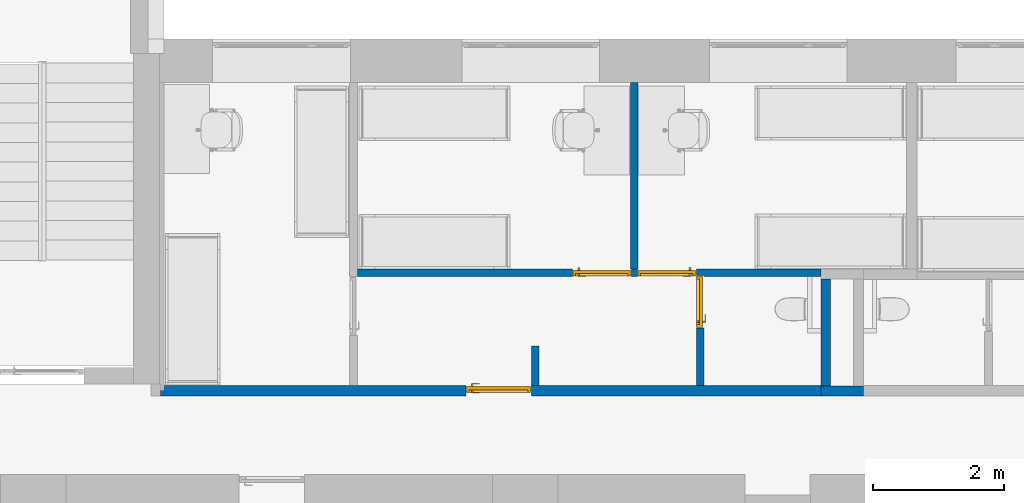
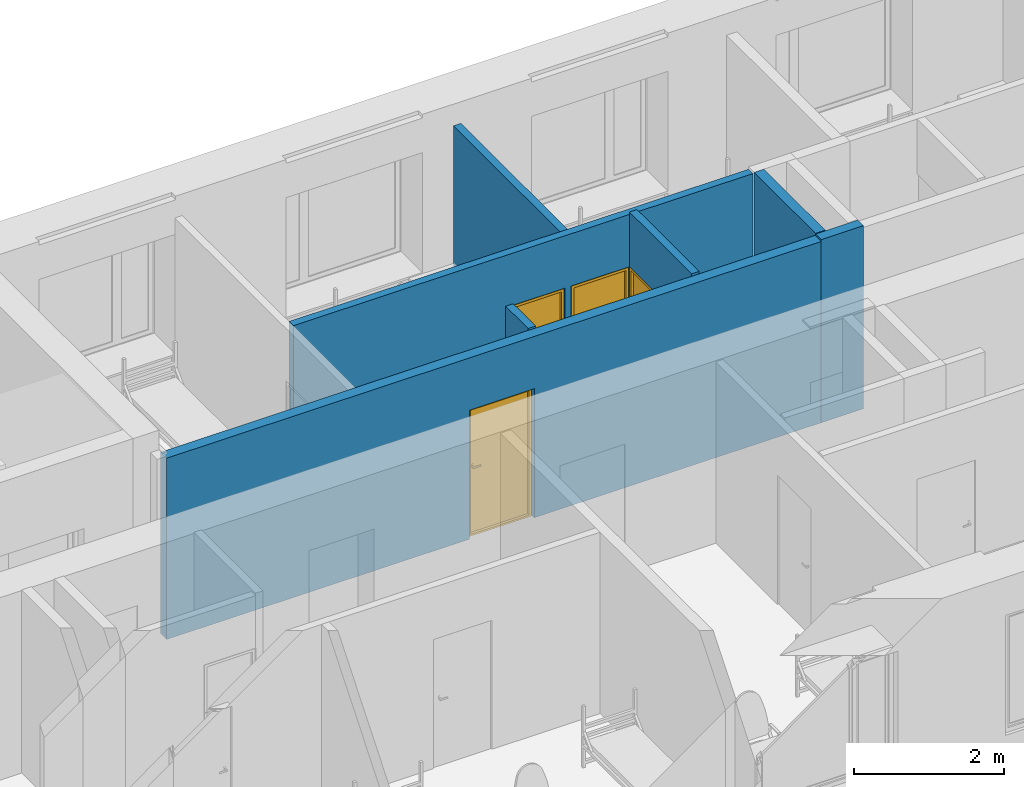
# One storey, part 9 of 48: 7 walls, 4 doors, 5 openings.
"""IFC2X3 building model written with IfcOpenShell, lengths in millimetres."""

from ifc_helpers import new_model, entity, si_unit, converted_unit, derived_unit, direction, frame, frame_2d, origin, place, context, subcontext, project, spatial, rectangle, extrude, faceted_brep, source, transform, mapped, material, material_list, layer, layer_set, layer_usage, type_object, type_shapes, element, fill, save


model = new_model("IFC2X3")

# Units and contexts
model_context = context("Model", 3, precision=0.01, world=origin(), true_north=direction((6.12303176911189e-17, 1.0)))
body_context = subcontext(model_context, "Body", "Model", "MODEL_VIEW")
ifc_project = project(units=[si_unit("LENGTHUNIT", "METRE", prefix="MILLI"), si_unit("AREAUNIT", "SQUARE_METRE"), si_unit("VOLUMEUNIT", "CUBIC_METRE"), converted_unit("PLANEANGLEUNIT", "DEGREE", entity("IfcRatioMeasure", 0.0174532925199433), si_unit("PLANEANGLEUNIT", "RADIAN"), dimensions=[0, 0, 0, 0, 0, 0, 0]), si_unit("MASSUNIT", "GRAM", prefix="KILO"), derived_unit("MASSDENSITYUNIT", [(si_unit("MASSUNIT", "GRAM", prefix="KILO"), 1), (si_unit("LENGTHUNIT", "METRE"), -3)]), si_unit("TIMEUNIT", "SECOND"), si_unit("FREQUENCYUNIT", "HERTZ"), si_unit("THERMODYNAMICTEMPERATUREUNIT", "DEGREE_CELSIUS"), derived_unit("THERMALTRANSMITTANCEUNIT", [(si_unit("MASSUNIT", "GRAM", prefix="KILO"), 1), (si_unit("THERMODYNAMICTEMPERATUREUNIT", "KELVIN"), -1), (si_unit("TIMEUNIT", "SECOND"), -3)]), derived_unit("VOLUMETRICFLOWRATEUNIT", [(si_unit("LENGTHUNIT", "METRE"), 3), (si_unit("TIMEUNIT", "SECOND"), -1)]), si_unit("ELECTRICCURRENTUNIT", "AMPERE"), si_unit("ELECTRICVOLTAGEUNIT", "VOLT"), si_unit("POWERUNIT", "WATT"), si_unit("FORCEUNIT", "NEWTON", prefix="KILO"), si_unit("ILLUMINANCEUNIT", "LUX"), si_unit("LUMINOUSFLUXUNIT", "LUMEN"), si_unit("LUMINOUSINTENSITYUNIT", "CANDELA"), derived_unit("USERDEFINED", [(si_unit("MASSUNIT", "GRAM", prefix="KILO"), -1), (si_unit("LENGTHUNIT", "METRE"), -2), (si_unit("TIMEUNIT", "SECOND"), 3), (si_unit("LUMINOUSFLUXUNIT", "LUMEN"), 1)]), derived_unit("LINEARVELOCITYUNIT", [(si_unit("LENGTHUNIT", "METRE"), 1), (si_unit("TIMEUNIT", "SECOND"), -1)]), si_unit("PRESSUREUNIT", "PASCAL"), derived_unit("USERDEFINED", [(si_unit("LENGTHUNIT", "METRE"), -2), (si_unit("MASSUNIT", "GRAM", prefix="KILO"), 1), (si_unit("TIMEUNIT", "SECOND"), -2)]), derived_unit("LINEARFORCEUNIT", [(si_unit("MASSUNIT", "GRAM", prefix="KILO"), 1), (si_unit("LENGTHUNIT", "METRE"), 1), (si_unit("TIMEUNIT", "SECOND"), -2), (si_unit("LENGTHUNIT", "METRE"), -1)]), derived_unit("PLANARFORCEUNIT", [(si_unit("MASSUNIT", "GRAM", prefix="KILO"), 1), (si_unit("LENGTHUNIT", "METRE"), 1), (si_unit("TIMEUNIT", "SECOND"), -2), (si_unit("LENGTHUNIT", "METRE"), -2)])], contexts=[model_context])

# Site, building, storey
site_placement = place(None, origin())
site = spatial("IfcSite", under=ifc_project, at=site_placement, Name="Default", CompositionType="ELEMENT")
building_placement = place(site_placement, origin())
building = spatial("IfcBuilding", under=site, at=building_placement, Name="SMA ARH", CompositionType="ELEMENT")
storey_placement = place(building_placement, frame((0.0, 0.0, 3300.0)))
storey = spatial("IfcBuildingStorey", under=building, at=storey_placement, Name="2 Korrus", CompositionType="ELEMENT", Elevation=3299.99999999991)

# Walls
ifc_material_1 = material(Name="EST. Müüritis. Väikeplokk. Kergkruusplokk")
ifc_layer_1 = layer(ifc_material_1, 150.0)
ifc_layer_set_1 = layer_set([ifc_layer_1], Name="Basic Wall:SS-02_ 150mm šahtide vahesein")
ifc_layer_usage_1 = layer_usage(ifc_layer_set_1, "AXIS2", "POSITIVE", -75.0)
wall_type_1 = type_object("IfcWallType", Name="Basic Wall:SS-02_ 150mm šahtide vahesein", PredefinedType="STANDARD", material=ifc_layer_set_1)
wall_1_placement = place(storey_placement, frame((22737.2884818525, 7795.0, 0.0), z_axis=(0.0, 0.0, 1.0), x_axis=(-1.0, 0.0, 0.0)))
element("IfcWallStandardCase", 1, at=wall_1_placement, inside=storey, type_object=wall_type_1, material=ifc_layer_usage_1, Name="Basic Wall:SS-02_ 150mm šahtide vahesein", ObjectType="Basic Wall:SS-02_ 150mm šahtide vahesein", context=body_context, shape_type="SweptSolid", body=[
    extrude(rectangle(XDim=650.000000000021, YDim=150.000000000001, at=frame_2d((325.000000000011, 4.68958205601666e-13), x_axis=(-1.0, 0.0))), origin(), (0.0, 0.0, 1.0), 2979.99999999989),
])
ifc_layer_usage_2 = layer_usage(ifc_layer_set_1, "AXIS2", "POSITIVE", -75.0)
wall_2_placement = place(storey_placement, frame((22162.2884818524, 7870.0, 0.0), z_axis=(0.0, 0.0, 1.0), x_axis=(0.0, 1.0, 0.0)))
element("IfcWallStandardCase", 2, at=wall_2_placement, inside=storey, type_object=wall_type_1, material=ifc_layer_usage_2, Name="Basic Wall:SS-02_ 150mm šahtide vahesein", ObjectType="Basic Wall:SS-02_ 150mm šahtide vahesein", context=body_context, shape_type="SweptSolid", body=[
    extrude(rectangle(XDim=1637.00000000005, YDim=150.000000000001, at=frame_2d((818.500000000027, 0.0), x_axis=(-1.0, 0.0))), origin(), (0.0, 0.0, 1.0), 2989.99999999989),
])

# Wall, opening, door
ifc_material_2 = material(Name="EST. Ehitusplaat. Kipsplaat")
ifc_layer_2 = layer(ifc_material_2, 12.5)
ifc_layer_3 = layer(ifc_material_2, 12.5)
ifc_material_3 = material(Name="EST. Soojustus. Mineraalvill. Default")
ifc_layer_4 = layer(ifc_material_3, 50.0)
ifc_layer_5 = layer(ifc_material_2, 12.5)
ifc_layer_6 = layer(ifc_material_3, 50.0)
ifc_layer_7 = layer(ifc_material_2, 12.5)
ifc_layer_8 = layer(ifc_material_2, 12.5)
ifc_layer_set_2 = layer_set([ifc_layer_2, ifc_layer_3, ifc_layer_4, ifc_layer_5, ifc_layer_6, ifc_layer_7, ifc_layer_8], Name="Basic Wall:SS-04_Kips, 50+50 mm metallkarkass 2")
ifc_layer_usage_3 = layer_usage(ifc_layer_set_2, "AXIS2", "NEGATIVE", 81.25)
wall_type_2 = type_object("IfcWallType", Name="Basic Wall:SS-04_Kips, 50+50 mm metallkarkass 2", PredefinedType="STANDARD", material=ifc_layer_set_2)
wall_3_placement = place(storey_placement, frame((12015.0, 7801.25000000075, 0.0)))
wall_3 = element("IfcWallStandardCase", 3, at=wall_3_placement, inside=storey, type_object=wall_type_2, material=ifc_layer_usage_3, Name="Basic Wall:SS-04_Kips, 50+50 mm metallkarkass 2", ObjectType="Basic Wall:SS-04_Kips, 50+50 mm metallkarkass 2", context=body_context, shape_type="SweptSolid", body=[
    extrude(rectangle(XDim=10072.2884818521, YDim=162.5, at=frame_2d((5036.14424092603, -2.1316282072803e-14), x_axis=(-1.0, 0.0))), origin(), (0.0, 0.0, 1.0), 2949.99999999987),
])
opening_1_placement = place(wall_3_placement, frame((4657.0, -81.2500000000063, 0.0)))
opening_1 = element("IfcOpeningElement", 4, at=opening_1_placement, cuts=wall_3, Name="SMA_D01, 1-poolne:SU-P-04 - 1000x2100 EI-30:1", ObjectType="Opening", context=body_context, shape_type="SweptSolid", body=[
    extrude(rectangle(XDim=2099.99999999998, YDim=1000.0, at=frame_2d((1049.99999999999, 500.0), x_axis=(1.0, 0.0))), frame((0.0, 0.0, 0.0), z_axis=(0.0, 1.0, 0.0), x_axis=(0.0, 0.0, 1.0)), (0.0, 0.0, 1.0), 162.5),
])
ifc_material_4 = material(Name="EST. Metall. Alumiinium. Värvitud. RAL7023 (Concrete grey)")
ifc_material_5 = material(Name="<Unnamed>")
ifc_material_6 = material(Name="EST. Klaas. 3x. Default")
ifc_material_list_1 = material_list([ifc_material_5, ifc_material_6, ifc_material_5, ifc_material_4, ifc_material_5, ifc_material_4, ifc_material_4])
door_style_1 = type_object("IfcDoorStyle", Name="SMA_D01, 1-poolne:SU-P-04 - 1000x2100 EI-30", ConstructionType="NOTDEFINED", OperationType="SINGLE_SWING_RIGHT", ParameterTakesPrecedence=False, Sizeable=False, material=ifc_material_list_1)
shared_shape_1 = source(origin(), body_context, "Body", "Brep", [
    faceted_brep([(110.0, 52.5000000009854, 1112.5), (110.0, 90.5000000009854, 1112.5), (85.0, 90.5000000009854, 1112.5), (85.0, 47.5000000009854, 1112.5), (205.0, 47.5000000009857, 1112.5), (205.0, 52.5000000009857, 1112.5), (110.0, 52.5000000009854, 1087.5), (205.0, 52.5000000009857, 1087.5), (205.0, 47.5000000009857, 1087.5), (85.0, 47.5000000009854, 1087.5), (85.0, 90.5000000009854, 1087.5), (110.0, 90.5000000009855, 1087.5)], [[[0, 1, 2, 3, 4, 5]], [[6, 7, 8, 9, 10, 11]], [[1, 0, 6, 11]], [[2, 1, 11, 10]], [[3, 2, 10, 9]], [[4, 3, 9, 8]], [[5, 4, 8, 7]], [[0, 5, 7, 6]]]),
    faceted_brep([(122.499999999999, 90.5000000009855, 1137.5), (122.499999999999, 92.5000000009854, 1137.5), (72.4999999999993, 92.5000000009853, 1137.5), (72.4999999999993, 90.5000000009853, 1137.5), (122.499999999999, 90.5000000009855, 1017.5), (72.4999999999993, 90.5000000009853, 1017.5), (72.4999999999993, 92.5000000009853, 1017.5), (122.499999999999, 92.5000000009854, 1017.5)], [[[0, 1, 2, 3]], [[4, 5, 6, 7]], [[1, 0, 4, 7]], [[2, 1, 7, 6]], [[3, 2, 6, 5]], [[0, 3, 5, 4]]]),
    faceted_brep([(110.0, 182.500000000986, 1112.5), (205.0, 182.500000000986, 1112.5), (205.0, 187.500000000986, 1112.5), (85.0, 187.500000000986, 1112.5), (85.0, 144.500000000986, 1112.5), (110.0, 144.500000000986, 1112.5), (110.0, 182.500000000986, 1087.5), (110.0, 144.500000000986, 1087.5), (85.0, 144.500000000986, 1087.5), (85.0, 187.500000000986, 1087.5), (205.0, 187.500000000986, 1087.5), (205.0, 182.500000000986, 1087.5)], [[[0, 1, 2, 3, 4, 5]], [[6, 7, 8, 9, 10, 11]], [[5, 7, 6, 0]], [[4, 8, 7, 5]], [[3, 9, 8, 4]], [[2, 10, 9, 3]], [[1, 11, 10, 2]], [[0, 6, 11, 1]]]),
    faceted_brep([(122.499999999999, 144.500000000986, 1137.5), (72.4999999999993, 144.500000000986, 1137.5), (72.4999999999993, 142.500000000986, 1137.5), (122.499999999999, 142.500000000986, 1137.5), (122.499999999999, 144.500000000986, 1017.5), (122.499999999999, 142.500000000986, 1017.5), (72.4999999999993, 142.500000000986, 1017.5), (72.4999999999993, 144.500000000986, 1017.5)], [[[0, 1, 2, 3]], [[4, 5, 6, 7]], [[3, 5, 4, 0]], [[2, 6, 5, 3]], [[1, 7, 6, 2]], [[0, 4, 7, 1]]]),
    faceted_brep([(950.0, 52.5000000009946, 30.0), (950.0, 52.5000000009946, 0.0), (950.0, 92.5000000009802, 0.0), (950.0, 92.5000000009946, 20.0), (950.0, 92.5000000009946, 30.0), (50.0, 52.5000000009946, 30.0), (50.0, 92.5000000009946, 30.0), (50.0, 92.5000000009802, 20.0), (50.0, 92.5000000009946, 0.0), (50.0, 52.5000000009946, 0.0), (35.0, 92.5000000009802, 0.0), (35.0, 142.500000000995, 0.0), (965.0, 142.500000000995, 0.0), (965.0, 92.5000000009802, 0.0), (965.0, 142.500000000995, 20.0), (965.0, 92.5000000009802, 20.0), (35.0, 142.500000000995, 20.0), (35.0, 92.5000000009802, 20.0)], [[[0, 1, 2, 3, 4]], [[5, 6, 7, 8, 9]], [[1, 0, 5, 9]], [[2, 1, 9, 8, 10, 11, 12, 13]], [[6, 4, 3, 7]], [[0, 4, 6, 5]], [[14, 15, 13, 12]], [[16, 11, 10, 17]], [[15, 14, 16, 17, 7, 3]], [[13, 15, 3, 2]], [[14, 12, 11, 16]], [[17, 10, 8, 7]]]),
    faceted_brep([(990.0, 52.5000000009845, 0.0), (950.0, 52.5000000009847, 0.0), (950.0, 92.5000000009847, 0.0), (965.0, 92.5000000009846, 0.0), (965.0, 142.500000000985, 0.0), (990.0, 142.500000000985, 0.0), (990.0, 52.5000000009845, 2090.0), (10.0, 52.5000000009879, 2090.0), (10.0, 52.5000000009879, 0.0), (50.0, 52.5000000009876, 0.0), (50.0, 52.5000000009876, 2050.0), (950.0, 52.5000000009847, 2050.0), (950.0, 92.5000000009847, 2050.0), (50.0, 92.5000000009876, 2050.0), (50.0, 92.5000000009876, 0.0), (35.0, 92.5000000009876, 0.0), (35.0, 92.5000000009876, 2065.0), (965.0, 92.5000000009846, 2065.0), (965.0, 142.500000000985, 2065.0), (35.0, 142.500000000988, 2065.0), (35.0, 142.500000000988, 0.0), (10.0, 142.500000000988, 0.0), (10.0, 142.500000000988, 2090.0), (990.0, 142.500000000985, 2090.0)], [[[0, 1, 2, 3, 4, 5]], [[1, 0, 6, 7, 8, 9, 10, 11]], [[2, 1, 11, 12]], [[3, 2, 12, 13, 14, 15, 16, 17]], [[4, 3, 17, 18]], [[5, 4, 18, 19, 20, 21, 22, 23]], [[0, 5, 23, 6]], [[8, 7, 22, 21]], [[9, 8, 21, 20, 15, 14]], [[10, 9, 14, 13]], [[16, 15, 20, 19]], [[11, 10, 13, 12]], [[17, 16, 19, 18]], [[7, 6, 23, 22]]]),
    faceted_brep([(35.0, 92.5000000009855, 2065.0), (35.0, 92.5000000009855, 20.0), (965.0, 92.5000000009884, 20.0), (965.0, 92.5000000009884, 2065.0), (35.0, 142.500000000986, 2065.0), (965.0, 142.500000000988, 2065.0), (965.0, 142.500000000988, 20.0), (35.0, 142.500000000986, 20.0)], [[[0, 1, 2, 3]], [[4, 5, 6, 7]], [[1, 0, 4, 7]], [[2, 1, 7, 6]], [[3, 2, 6, 5]], [[0, 3, 5, 4]]]),
])
type_shapes(door_style_1, [shared_shape_1])
door_1_placement = place(opening_1_placement, origin())
door_1 = element("IfcDoor", 5, at=door_1_placement, inside=storey, type_object=door_style_1, material=ifc_material_4, Name="SMA_D01, 1-poolne:SU-P-04 - 1000x2100 EI-30", ObjectType="SMA_D01, 1-poolne:SU-P-04 - 1000x2100 EI-30", OverallHeight=2099.99999999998, OverallWidth=1000.0, context=body_context, shape_type="MappedRepresentation", body=[
    mapped(shared_shape_1, transform((0.0, 0.0, 0.0), scale=1.0)),
])
fill(opening_1, door_1)

# Wall, openings, doors
ifc_layer_9 = layer(ifc_material_2, 12.5)
ifc_layer_10 = layer(ifc_material_2, 12.5)
ifc_layer_11 = layer(ifc_material_3, 66.0)
ifc_layer_12 = layer(ifc_material_2, 12.5)
ifc_layer_13 = layer(ifc_material_2, 12.5)
ifc_layer_set_3 = layer_set([ifc_layer_9, ifc_layer_10, ifc_layer_11, ifc_layer_12, ifc_layer_13], Name="Basic Wall:SS-05_Kips, 66mm metallkarkass")
ifc_layer_usage_4 = layer_usage(ifc_layer_set_3, "AXIS2", "NEGATIVE", 58.0)
wall_type_3 = type_object("IfcWallType", Name="Basic Wall:SS-05_Kips, 66mm metallkarkass", PredefinedType="STANDARD", material=ifc_layer_set_3)
wall_4_placement = place(storey_placement, frame((15015.5000000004, 9599.0, 0.0)))
wall_4 = element("IfcWallStandardCase", 6, at=wall_4_placement, inside=storey, type_object=wall_type_3, material=ifc_layer_usage_4, Name="Basic Wall:SS-05_Kips, 66mm metallkarkass", ObjectType="Basic Wall:SS-05_Kips, 66mm metallkarkass", context=body_context, shape_type="SweptSolid", body=[
    extrude(rectangle(XDim=7071.78848185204, YDim=116.0, at=frame_2d((3535.89424092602, -6.75015598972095e-14), x_axis=(-1.0, 0.0))), origin(), (0.0, 0.0, 1.0), 2949.99999999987),
])
opening_2_placement = place(wall_4_placement, origin())
element("IfcOpeningElement", 7, at=opening_2_placement, cuts=wall_4, Name="Basic Wall:SS-05_Kips, 66mm metallkarkass", ObjectType="Opening", context=body_context, shape_type="SweptSolid", body=[
    extrude(rectangle(XDim=2099.99999999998, YDim=116.0, at=frame_2d((0.0, 0.0), x_axis=(0.0, 1.0))), frame((5230.49999999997, -842.0, 1050.0), z_axis=(0.0, 1.0, 0.0), x_axis=(-1.0, 0.0, 0.0)), (0.0, 0.0, 1.0), 800.0),
])
opening_3_placement = place(wall_4_placement, frame((4273.49999999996, -58.0, 0.0)))
opening_3 = element("IfcOpeningElement", 8, at=opening_3_placement, cuts=wall_4, Name="SMA_D01, 1-poolne:SU-P-05 - 900x2100 TUBA:1", ObjectType="Opening", context=body_context, shape_type="SweptSolid", body=[
    extrude(rectangle(XDim=2099.99999999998, YDim=900.0, at=frame_2d((1049.99999999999, 450.000000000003), x_axis=(1.0, 0.0))), frame((0.0, 0.0, 0.0), z_axis=(0.0, 1.0, 0.0), x_axis=(0.0, 0.0, 1.0)), (0.0, 0.0, 1.0), 116.0),
])
opening_4_placement = place(wall_4_placement, frame((3282.49999999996, -58.0, 0.0)))
opening_4 = element("IfcOpeningElement", 9, at=opening_4_placement, cuts=wall_4, Name="SMA_D01, 1-poolne:SU-P-05 - 900x2100 TUBA:1", ObjectType="Opening", context=body_context, shape_type="SweptSolid", body=[
    extrude(rectangle(XDim=2099.99999999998, YDim=900.0, at=frame_2d((1049.99999999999, 450.0), x_axis=(1.0, 0.0))), frame((0.0, 0.0, 0.0), z_axis=(0.0, 1.0, 0.0), x_axis=(0.0, 0.0, 1.0)), (0.0, 0.0, 1.0), 116.0),
])
ifc_material_list_2 = material_list([ifc_material_4, ifc_material_5, ifc_material_4, ifc_material_5, ifc_material_5, ifc_material_6, ifc_material_4])
door_style_2 = type_object("IfcDoorStyle", Name="SMA_D01, 1-poolne:SU-P-05 - 900x2100 TUBA", ConstructionType="NOTDEFINED", OperationType="SINGLE_SWING_LEFT", ParameterTakesPrecedence=False, Sizeable=False, material=ifc_material_list_2)
shared_shape_2 = source(origin(), body_context, "Body", "Brep", [
    faceted_brep([(790.0, 6.0, 1112.5), (695.0, 6.0, 1112.5), (695.0, 1.0, 1112.5), (815.0, 1.0, 1112.5), (815.0, 44.0, 1112.5), (790.0, 44.0, 1112.5), (790.0, 6.0, 1087.5), (790.0, 44.0, 1087.5), (815.0, 44.0, 1087.5), (815.0, 1.0, 1087.5), (695.0, 1.0, 1087.5), (695.0, 6.0, 1087.5)], [[[0, 1, 2, 3, 4, 5]], [[6, 7, 8, 9, 10, 11]], [[5, 7, 6, 0]], [[4, 8, 7, 5]], [[3, 9, 8, 4]], [[2, 10, 9, 3]], [[1, 11, 10, 2]], [[0, 6, 11, 1]]]),
    faceted_brep([(777.500000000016, 44.0, 1137.5), (827.500000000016, 44.0, 1137.5), (827.500000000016, 46.0, 1137.5), (777.500000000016, 46.0, 1137.5), (777.500000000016, 44.0, 1017.5), (777.500000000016, 46.0, 1017.5), (827.500000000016, 46.0, 1017.5), (827.500000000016, 44.0, 1017.5)], [[[0, 1, 2, 3]], [[4, 5, 6, 7]], [[3, 5, 4, 0]], [[2, 6, 5, 3]], [[1, 7, 6, 2]], [[0, 4, 7, 1]]]),
    faceted_brep([(790.0, 136.0, 1112.5), (790.0, 98.0, 1112.5), (815.0, 98.0, 1112.5), (815.0, 141.0, 1112.5), (695.0, 141.0, 1112.5), (695.0, 136.0, 1112.5), (790.0, 136.0, 1087.5), (695.0, 136.0, 1087.5), (695.0, 141.0, 1087.5), (815.0, 141.0, 1087.5), (815.0, 98.0, 1087.5), (790.0, 98.0, 1087.5)], [[[0, 1, 2, 3, 4, 5]], [[6, 7, 8, 9, 10, 11]], [[1, 0, 6, 11]], [[2, 1, 11, 10]], [[3, 2, 10, 9]], [[4, 3, 9, 8]], [[5, 4, 8, 7]], [[0, 5, 7, 6]]]),
    faceted_brep([(777.500000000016, 98.0, 1137.5), (777.500000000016, 96.0, 1137.5), (827.500000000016, 96.0, 1137.5), (827.500000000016, 98.0, 1137.5), (777.500000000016, 98.0, 1017.5), (827.500000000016, 98.0, 1017.5), (827.500000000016, 96.0, 1017.5), (777.500000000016, 96.0, 1017.5)], [[[0, 1, 2, 3]], [[4, 5, 6, 7]], [[1, 0, 4, 7]], [[2, 1, 7, 6]], [[3, 2, 6, 5]], [[0, 3, 5, 4]]]),
    faceted_brep([(50.0, 6.0, 30.0), (50.0, 46.0, 30.0), (50.0, 46.0, 20.0), (50.0, 46.0, 0.0), (50.0, 6.0, 0.0), (850.0, 6.0, 30.0), (850.0, 6.0, 0.0), (850.0, 46.0, 0.0), (850.0, 46.0, 20.0), (850.0, 46.0, 30.0), (35.0, 46.0, 0.0), (35.0, 96.0, 0.0), (865.0, 96.0, 0.0), (865.0, 46.0, 0.0), (35.0, 96.0, 20.0), (35.0, 46.0, 20.0), (865.0, 96.0, 20.0), (865.0, 46.0, 20.0)], [[[0, 1, 2, 3, 4]], [[5, 6, 7, 8, 9]], [[4, 6, 5, 0]], [[3, 10, 11, 12, 13, 7, 6, 4]], [[9, 8, 2, 1]], [[0, 5, 9, 1]], [[14, 11, 10, 15]], [[16, 17, 13, 12]], [[15, 2, 8, 17, 16, 14]], [[10, 3, 2, 15]], [[14, 16, 12, 11]], [[17, 8, 7, 13]]]),
    faceted_brep([(10.0, 6.0, 0.0), (10.0, 96.0, 0.0), (35.0, 96.0, 0.0), (35.0, 46.0, 0.0), (50.0, 46.0, 0.0), (50.0, 6.0, 0.0), (50.0, 6.0, 2050.0), (850.0, 6.0, 2050.0), (850.0, 6.0, 0.0), (890.0, 6.0, 0.0), (890.0, 6.0, 2090.0), (10.0, 6.0, 2090.0), (50.0, 46.0, 2050.0), (35.0, 46.0, 2065.0), (865.0, 46.0, 2065.0), (865.0, 46.0, 0.0), (850.0, 46.0, 0.0), (850.0, 46.0, 2050.0), (35.0, 96.0, 2065.0), (10.0, 96.0, 2090.0), (890.0, 96.0, 2090.0), (890.0, 96.0, 0.0), (865.0, 96.0, 0.0), (865.0, 96.0, 2065.0)], [[[0, 1, 2, 3, 4, 5]], [[5, 6, 7, 8, 9, 10, 11, 0]], [[4, 12, 6, 5]], [[3, 13, 14, 15, 16, 17, 12, 4]], [[2, 18, 13, 3]], [[1, 19, 20, 21, 22, 23, 18, 2]], [[0, 11, 19, 1]], [[9, 21, 20, 10]], [[8, 16, 15, 22, 21, 9]], [[7, 17, 16, 8]], [[14, 23, 22, 15]], [[6, 12, 17, 7]], [[13, 18, 23, 14]], [[10, 20, 19, 11]]]),
    faceted_brep([(865.0, 46.0, 2065.0), (35.0, 46.0, 2065.0), (35.0, 46.0, 20.0), (865.0, 46.0, 20.0), (865.0, 96.0, 2065.0), (865.0, 96.0, 20.0), (35.0, 96.0, 20.0), (35.0, 96.0, 2065.0)], [[[0, 1, 2, 3]], [[4, 5, 6, 7]], [[3, 5, 4, 0]], [[2, 6, 5, 3]], [[1, 7, 6, 2]], [[0, 4, 7, 1]]]),
])
type_shapes(door_style_2, [shared_shape_2])
door_2_placement = place(opening_3_placement, origin())
door_2 = element("IfcDoor", 10, at=door_2_placement, inside=storey, type_object=door_style_2, material=ifc_material_4, Name="SMA_D01, 1-poolne:SU-P-05 - 900x2100 TUBA", ObjectType="SMA_D01, 1-poolne:SU-P-05 - 900x2100 TUBA", OverallHeight=2099.99999999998, OverallWidth=900.000000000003, context=body_context, shape_type="MappedRepresentation", body=[
    mapped(shared_shape_2, transform((0.0, 0.0, 0.0), scale=1.0)),
])
fill(opening_3, door_2)
ifc_material_list_3 = material_list([ifc_material_5, ifc_material_6, ifc_material_5, ifc_material_4, ifc_material_4, ifc_material_4, ifc_material_5])
door_style_3 = type_object("IfcDoorStyle", Name="SMA_D01, 1-poolne:SU-P-05 - 900x2100 TUBA", ConstructionType="NOTDEFINED", OperationType="SINGLE_SWING_RIGHT", ParameterTakesPrecedence=False, Sizeable=False, material=ifc_material_list_3)
shared_shape_3 = source(origin(), body_context, "Body", "Brep", [
    faceted_brep([(110.0, 6.0, 1112.5), (110.0, 44.0, 1112.5), (85.0, 44.0, 1112.5), (85.0, 1.0, 1112.5), (205.0, 1.0, 1112.5), (205.0, 6.0, 1112.5), (110.0, 6.0, 1087.5), (205.0, 6.0, 1087.5), (205.0, 1.0, 1087.5), (85.0, 1.0, 1087.5), (85.0, 44.0, 1087.5), (110.0, 44.0, 1087.5)], [[[0, 1, 2, 3, 4, 5]], [[6, 7, 8, 9, 10, 11]], [[1, 0, 6, 11]], [[2, 1, 11, 10]], [[3, 2, 10, 9]], [[4, 3, 9, 8]], [[5, 4, 8, 7]], [[0, 5, 7, 6]]]),
    faceted_brep([(122.5, 44.0, 1137.5), (122.5, 46.0, 1137.5), (72.5000000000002, 46.0, 1137.5), (72.5000000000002, 44.0, 1137.5), (122.5, 44.0, 1017.5), (72.5000000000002, 44.0, 1017.5), (72.5000000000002, 46.0, 1017.5), (122.5, 46.0, 1017.5)], [[[0, 1, 2, 3]], [[4, 5, 6, 7]], [[1, 0, 4, 7]], [[2, 1, 7, 6]], [[3, 2, 6, 5]], [[0, 3, 5, 4]]]),
    faceted_brep([(110.0, 136.0, 1112.5), (205.0, 136.0, 1112.5), (205.0, 141.0, 1112.5), (85.0, 141.0, 1112.5), (85.0, 98.0, 1112.5), (110.0, 98.0, 1112.5), (110.0, 136.0, 1087.5), (110.0, 98.0, 1087.5), (85.0, 98.0, 1087.5), (85.0, 141.0, 1087.5), (205.0, 141.0, 1087.5), (205.0, 136.0, 1087.5)], [[[0, 1, 2, 3, 4, 5]], [[6, 7, 8, 9, 10, 11]], [[5, 7, 6, 0]], [[4, 8, 7, 5]], [[3, 9, 8, 4]], [[2, 10, 9, 3]], [[1, 11, 10, 2]], [[0, 6, 11, 1]]]),
    faceted_brep([(122.5, 98.0, 1137.5), (72.5000000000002, 98.0, 1137.5), (72.5000000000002, 96.0, 1137.5), (122.5, 96.0, 1137.5), (122.5, 98.0, 1017.5), (122.5, 96.0, 1017.5), (72.5000000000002, 96.0, 1017.5), (72.5000000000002, 98.0, 1017.5)], [[[0, 1, 2, 3]], [[4, 5, 6, 7]], [[3, 5, 4, 0]], [[2, 6, 5, 3]], [[1, 7, 6, 2]], [[0, 4, 7, 1]]]),
    faceted_brep([(850.0, 6.0, 30.0), (850.0, 6.0, 0.0), (850.0, 46.0, 0.0), (850.0, 46.0, 20.0), (850.0, 46.0, 30.0), (50.0, 6.0, 30.0), (50.0, 46.0, 30.0), (50.0, 46.0, 20.0), (50.0, 46.0, 0.0), (50.0, 6.0, 0.0), (35.0, 46.0, 0.0), (35.0, 96.0, 0.0), (865.0, 96.0, 0.0), (865.0, 46.0, 0.0), (865.0, 96.0, 20.0), (865.0, 46.0, 20.0), (35.0, 96.0, 20.0), (35.0, 46.0, 20.0)], [[[0, 1, 2, 3, 4]], [[5, 6, 7, 8, 9]], [[1, 0, 5, 9]], [[2, 1, 9, 8, 10, 11, 12, 13]], [[6, 4, 3, 7]], [[0, 4, 6, 5]], [[14, 15, 13, 12]], [[16, 11, 10, 17]], [[15, 14, 16, 17, 7, 3]], [[13, 15, 3, 2]], [[14, 12, 11, 16]], [[17, 10, 8, 7]]]),
    faceted_brep([(890.0, 6.0, 0.0), (850.0, 6.0, 0.0), (850.0, 46.0, 0.0), (865.0, 46.0, 0.0), (865.0, 96.0, 0.0), (890.0, 96.0, 0.0), (890.0, 6.0, 2090.0), (10.0, 6.0, 2090.0), (10.0, 6.0, 0.0), (50.0, 6.0, 0.0), (50.0, 6.0, 2050.0), (850.0, 6.0, 2050.0), (850.0, 46.0, 2050.0), (50.0, 46.0, 2050.0), (50.0, 46.0, 0.0), (35.0, 46.0, 0.0), (35.0, 46.0, 2065.0), (865.0, 46.0, 2065.0), (865.0, 96.0, 2065.0), (35.0, 96.0, 2065.0), (35.0, 96.0, 0.0), (10.0, 96.0, 0.0), (10.0, 96.0, 2090.0), (890.0, 96.0, 2090.0)], [[[0, 1, 2, 3, 4, 5]], [[1, 0, 6, 7, 8, 9, 10, 11]], [[2, 1, 11, 12]], [[3, 2, 12, 13, 14, 15, 16, 17]], [[4, 3, 17, 18]], [[5, 4, 18, 19, 20, 21, 22, 23]], [[0, 5, 23, 6]], [[8, 7, 22, 21]], [[9, 8, 21, 20, 15, 14]], [[10, 9, 14, 13]], [[16, 15, 20, 19]], [[11, 10, 13, 12]], [[17, 16, 19, 18]], [[7, 6, 23, 22]]]),
    faceted_brep([(35.0, 46.0, 2065.0), (35.0, 46.0, 20.0), (865.0, 46.0, 20.0), (865.0, 46.0, 2065.0), (35.0, 96.0, 2065.0), (865.0, 96.0, 2065.0), (865.0, 96.0, 20.0), (35.0, 96.0, 20.0)], [[[0, 1, 2, 3]], [[4, 5, 6, 7]], [[1, 0, 4, 7]], [[2, 1, 7, 6]], [[3, 2, 6, 5]], [[0, 3, 5, 4]]]),
])
type_shapes(door_style_3, [shared_shape_3])
door_3_placement = place(opening_4_placement, origin())
door_3 = element("IfcDoor", 11, at=door_3_placement, inside=storey, type_object=door_style_3, material=ifc_material_4, Name="SMA_D01, 1-poolne:SU-P-05 - 900x2100 TUBA", ObjectType="SMA_D01, 1-poolne:SU-P-05 - 900x2100 TUBA", OverallHeight=2099.99999999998, OverallWidth=899.999999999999, context=body_context, shape_type="MappedRepresentation", body=[
    mapped(shared_shape_3, transform((0.0, 0.0, 0.0), scale=1.0)),
])
fill(opening_4, door_3)

# Wall
ifc_layer_usage_5 = layer_usage(ifc_layer_set_3, "AXIS2", "NEGATIVE", 58.0)
wall_5_placement = place(storey_placement, frame((19243.5000000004, 12500.0, 0.0), z_axis=(0.0, 0.0, 1.0), x_axis=(0.0, -1.0, 0.0)))
element("IfcWallStandardCase", 12, at=wall_5_placement, inside=storey, type_object=wall_type_3, material=ifc_layer_usage_5, Name="Basic Wall:SS-05_Kips, 66mm metallkarkass", ObjectType="Basic Wall:SS-05_Kips, 66mm metallkarkass", context=body_context, shape_type="SweptSolid", body=[
    extrude(rectangle(XDim=2842.9999999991, YDim=116.0, at=frame_2d((1421.49999999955, -2.38031816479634e-13), x_axis=(-1.0, 0.0))), origin(), (0.0, 0.0, 1.0), 2949.99999999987),
])

# Wall, opening, door
ifc_layer_usage_6 = layer_usage(ifc_layer_set_3, "AXIS2", "NEGATIVE", 58.0)
wall_6_placement = place(storey_placement, frame((20246.0, 7882.50000000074, 0.0), z_axis=(0.0, 0.0, 1.0), x_axis=(0.0, 1.0, 0.0)))
wall_6 = element("IfcWallStandardCase", 13, at=wall_6_placement, inside=storey, type_object=wall_type_3, material=ifc_layer_usage_6, Name="Basic Wall:SS-05_Kips, 66mm metallkarkass", ObjectType="Basic Wall:SS-05_Kips, 66mm metallkarkass", context=body_context, shape_type="SweptSolid", body=[
    extrude(rectangle(XDim=1658.50000000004, YDim=116.0, at=frame_2d((829.250000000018, 8.17124146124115e-14), x_axis=(-1.0, 0.0))), origin(), (0.0, 0.0, 1.0), 2989.99999999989),
])
opening_5_placement = place(wall_6_placement, frame((1674.50000000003, 58.0, 0.0)))
opening_5 = element("IfcOpeningElement", 14, at=opening_5_placement, cuts=wall_6, Name="SMA_D01, 1-poolne:SU-P-06 - 800x2100 DUŠŠ:1", ObjectType="Opening", context=body_context, shape_type="SweptSolid", body=[
    extrude(rectangle(XDim=2099.99999999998, YDim=800.0, at=frame_2d((1049.99999999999, 400.0), x_axis=(1.0, 0.0))), frame((0.0, 0.0, 0.0), z_axis=(0.0, -1.0, 0.0), x_axis=(0.0, 0.0, 1.0)), (0.0, 0.0, 1.0), 116.0),
])
ifc_material_list_4 = material_list([ifc_material_4, ifc_material_4, ifc_material_5, ifc_material_6, ifc_material_5, ifc_material_5, ifc_material_4])
door_style_4 = type_object("IfcDoorStyle", Name="SMA_D01, 1-poolne:SU-P-06 - 800x2100 DUŠŠ", ConstructionType="NOTDEFINED", OperationType="NOTDEFINED", ParameterTakesPrecedence=False, Sizeable=False, material=ifc_material_list_4)
shared_shape_4 = source(origin(), body_context, "Body", "Brep", [
    faceted_brep([(690.0, 6.0, 1112.5), (595.0, 6.0, 1112.5), (595.0, 1.0, 1112.5), (715.0, 1.0, 1112.5), (715.0, 44.0, 1112.5), (690.0, 44.0, 1112.5), (690.0, 6.0, 1087.5), (690.0, 44.0, 1087.5), (715.0, 44.0, 1087.5), (715.0, 1.0, 1087.5), (595.0, 1.0, 1087.5), (595.0, 6.0, 1087.5)], [[[0, 1, 2, 3, 4, 5]], [[6, 7, 8, 9, 10, 11]], [[5, 7, 6, 0]], [[4, 8, 7, 5]], [[3, 9, 8, 4]], [[2, 10, 9, 3]], [[1, 11, 10, 2]], [[0, 6, 11, 1]]]),
    faceted_brep([(677.500000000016, 44.0, 1137.5), (727.500000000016, 44.0, 1137.5), (727.500000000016, 46.0, 1137.5), (677.500000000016, 46.0, 1137.5), (677.500000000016, 44.0, 1017.5), (677.500000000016, 46.0, 1017.5), (727.500000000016, 46.0, 1017.5), (727.500000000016, 44.0, 1017.5)], [[[0, 1, 2, 3]], [[4, 5, 6, 7]], [[3, 5, 4, 0]], [[2, 6, 5, 3]], [[1, 7, 6, 2]], [[0, 4, 7, 1]]]),
    faceted_brep([(690.0, 136.0, 1112.5), (690.0, 98.0, 1112.5), (715.0, 98.0, 1112.5), (715.0, 141.0, 1112.5), (595.0, 141.0, 1112.5), (595.0, 136.0, 1112.5), (690.0, 136.0, 1087.5), (595.0, 136.0, 1087.5), (595.0, 141.0, 1087.5), (715.0, 141.0, 1087.5), (715.0, 98.0, 1087.5), (690.0, 98.0, 1087.5)], [[[0, 1, 2, 3, 4, 5]], [[6, 7, 8, 9, 10, 11]], [[1, 0, 6, 11]], [[2, 1, 11, 10]], [[3, 2, 10, 9]], [[4, 3, 9, 8]], [[5, 4, 8, 7]], [[0, 5, 7, 6]]]),
    faceted_brep([(677.500000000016, 98.0, 1137.5), (677.500000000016, 96.0, 1137.5), (727.500000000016, 96.0, 1137.5), (727.500000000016, 98.0, 1137.5), (677.500000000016, 98.0, 1017.5), (727.500000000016, 98.0, 1017.5), (727.500000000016, 96.0, 1017.5), (677.500000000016, 96.0, 1017.5)], [[[0, 1, 2, 3]], [[4, 5, 6, 7]], [[1, 0, 4, 7]], [[2, 1, 7, 6]], [[3, 2, 6, 5]], [[0, 3, 5, 4]]]),
    faceted_brep([(50.0, 6.0, 30.0), (50.0, 46.0, 30.0), (50.0, 46.0, 20.0), (50.0, 46.0, 0.0), (50.0, 6.0, 0.0), (750.0, 6.0, 30.0), (750.0, 6.0, 0.0), (750.0, 46.0, 0.0), (750.0, 46.0, 20.0), (750.0, 46.0, 30.0), (35.0, 46.0, 0.0), (35.0, 96.0, 0.0), (765.0, 96.0, 0.0), (765.0, 46.0, 0.0), (35.0, 96.0, 20.0), (35.0, 46.0, 20.0), (765.0, 96.0, 20.0), (765.0, 46.0, 20.0)], [[[0, 1, 2, 3, 4]], [[5, 6, 7, 8, 9]], [[4, 6, 5, 0]], [[3, 10, 11, 12, 13, 7, 6, 4]], [[9, 8, 2, 1]], [[0, 5, 9, 1]], [[14, 11, 10, 15]], [[16, 17, 13, 12]], [[15, 2, 8, 17, 16, 14]], [[10, 3, 2, 15]], [[14, 16, 12, 11]], [[17, 8, 7, 13]]]),
    faceted_brep([(10.0, 6.0, 0.0), (10.0, 96.0, 0.0), (35.0, 96.0, 0.0), (35.0, 46.0, 0.0), (50.0, 46.0, 0.0), (50.0, 6.0, 0.0), (50.0, 6.0, 2050.0), (750.0, 6.0, 2050.0), (750.0, 6.0, 0.0), (790.0, 6.0, 0.0), (790.0, 6.0, 2090.0), (10.0, 6.0, 2090.0), (50.0, 46.0, 2050.0), (35.0, 46.0, 2065.0), (765.0, 46.0, 2065.0), (765.0, 46.0, 0.0), (750.0, 46.0, 0.0), (750.0, 46.0, 2050.0), (35.0, 96.0, 2065.0), (10.0, 96.0, 2090.0), (790.0, 96.0, 2090.0), (790.0, 96.0, 0.0), (765.0, 96.0, 0.0), (765.0, 96.0, 2065.0)], [[[0, 1, 2, 3, 4, 5]], [[5, 6, 7, 8, 9, 10, 11, 0]], [[4, 12, 6, 5]], [[3, 13, 14, 15, 16, 17, 12, 4]], [[2, 18, 13, 3]], [[1, 19, 20, 21, 22, 23, 18, 2]], [[0, 11, 19, 1]], [[9, 21, 20, 10]], [[8, 16, 15, 22, 21, 9]], [[7, 17, 16, 8]], [[14, 23, 22, 15]], [[6, 12, 17, 7]], [[13, 18, 23, 14]], [[10, 20, 19, 11]]]),
    faceted_brep([(765.0, 46.0, 2065.0), (35.0, 46.0, 2065.0), (35.0, 46.0, 20.0), (765.0, 46.0, 20.0), (765.0, 96.0, 2065.0), (765.0, 96.0, 20.0), (35.0, 96.0, 20.0), (35.0, 96.0, 2065.0)], [[[0, 1, 2, 3]], [[4, 5, 6, 7]], [[3, 5, 4, 0]], [[2, 6, 5, 3]], [[1, 7, 6, 2]], [[0, 4, 7, 1]]]),
])
type_shapes(door_style_4, [shared_shape_4])
door_4_placement = place(opening_5_placement, frame((0.0, 0.0, 0.0), z_axis=(0.0, 0.0, 1.0), x_axis=(-1.0, 0.0, 0.0)))
door_4 = element("IfcDoor", 15, at=door_4_placement, inside=storey, type_object=door_style_4, material=ifc_material_4, Name="SMA_D01, 1-poolne:SU-P-06 - 800x2100 DUŠŠ", ObjectType="SMA_D01, 1-poolne:SU-P-06 - 800x2100 DUŠŠ", OverallHeight=2099.99999999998, OverallWidth=800.0, context=body_context, shape_type="MappedRepresentation", body=[
    mapped(shared_shape_4, transform((0.0, 0.0, 0.0), scale=1.0)),
])
fill(opening_5, door_4)

# Wall
ifc_layer_14 = layer(ifc_material_2, 12.5)
ifc_layer_15 = layer(ifc_material_2, 12.5)
ifc_material_7 = material(Name="EST. Õhkvahe. Roov. Kipsplaadi alusroov. Vertikaalne")
ifc_layer_16 = layer(ifc_material_7, 66.0)
ifc_layer_17 = layer(ifc_material_2, 12.5)
ifc_layer_18 = layer(ifc_material_2, 12.5)
ifc_layer_set_4 = layer_set([ifc_layer_14, ifc_layer_15, ifc_layer_16, ifc_layer_17, ifc_layer_18], Name="Basic Wall:SS-03_Kips, 66mm metallkarkass")
ifc_layer_usage_7 = layer_usage(ifc_layer_set_4, "AXIS2", "NEGATIVE", 58.0)
wall_type_4 = type_object("IfcWallType", Name="Basic Wall:SS-03_Kips, 66mm metallkarkass", PredefinedType="STANDARD", material=ifc_layer_set_4)
wall_7_placement = place(storey_placement, frame((17730.0, 8482.50000000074, 0.0), z_axis=(0.0, 0.0, 1.0), x_axis=(0.0, -1.0, 0.0)))
element("IfcWallStandardCase", 16, at=wall_7_placement, inside=storey, type_object=wall_type_4, material=ifc_layer_usage_7, Name="Basic Wall:SS-03_Kips, 66mm metallkarkass", ObjectType="Basic Wall:SS-03_Kips, 66mm metallkarkass", context=body_context, shape_type="SweptSolid", body=[
    extrude(rectangle(XDim=599.999999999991, YDim=116.0, at=frame_2d((299.999999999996, 0.0), x_axis=(-1.0, 0.0))), origin(), (0.0, 0.0, 1.0), 2979.99999999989),
])

save(model, "model.ifc")
